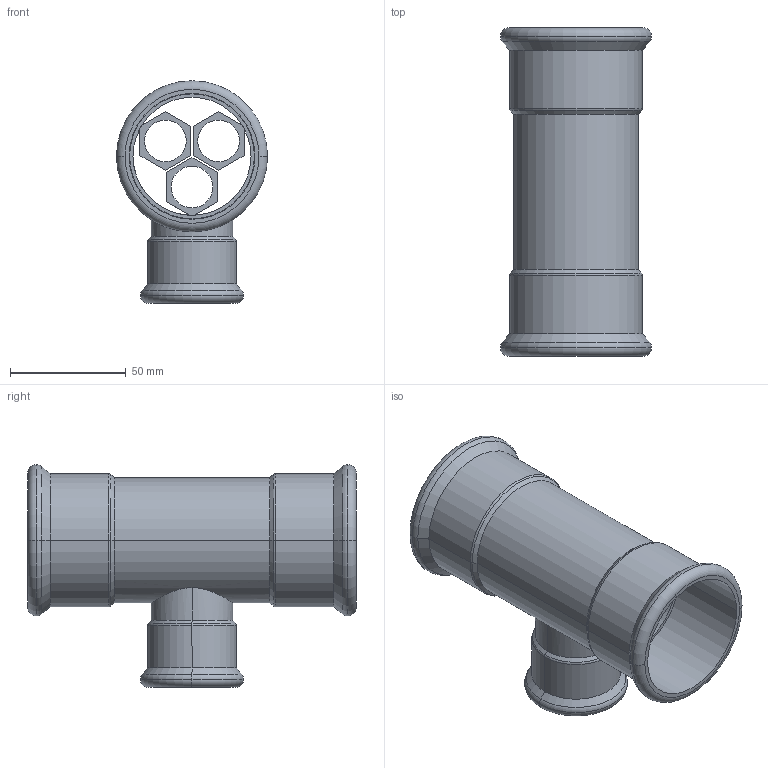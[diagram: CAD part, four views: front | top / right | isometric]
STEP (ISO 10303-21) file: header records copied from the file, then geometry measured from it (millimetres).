
FILE_DESCRIPTION(('OneSpaceDesigner STEP Export'),'2;1');
FILE_NAME('R2715 54x35x54.stp','2010-06-10T 9:09:50',(''),(''),'OneSpace Designer STEP processor for AP214 (Solid Model)','OneSpace Modeling 15.00A 14-Mar-2007 (C) CoCreate Software GmbH','');
FILE_SCHEMA(('AUTOMOTIVE_DESIGN { 1 0 10303 214 1 1 1 1 }'));
Length unit declared in the file: millimetre
Products named in the file (2): R2715_54x35x54
Assembly tree (1 placements, depth 2):
  R2715_54x35x54
    R2715_54x35x54
Bounding box: 65.3 x 142 x 96.15 mm (x, y, z)
Volume: 58829.5 mm3; surface area: 65880.9 mm2
Topology: 1 solids, 1 shells, 174 faces, 431 edges, 276 vertices
Faces by surface type: plane 90, cylinder 54, torus 18, cone 12
Entity records: 5759 total; most frequent: CARTESIAN_POINT 1938, ORIENTED_EDGE 862, DIRECTION 671, EDGE_CURVE 431, VERTEX_POINT 276, VECTOR 263, LINE 263, EDGE_LOOP 211
